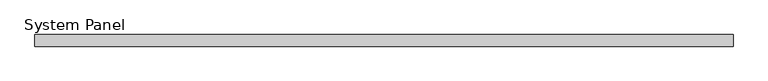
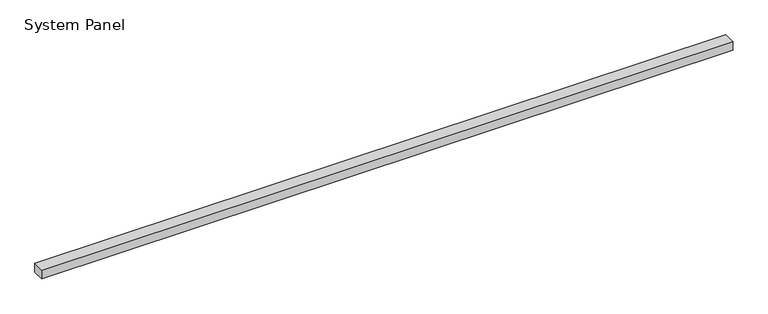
"""IFC4 building model written with IfcOpenShell, lengths in millimetres: plate geometry, System Panel : Equitilt 100mm Horizontal - Plain RHEA - MW."""

from ifc_helpers import new_model, si_unit, origin, origin_with_axes, place, context, project, spatial, polyline, outline, extrude, source, transform, mapped, element, save


def system_panel_810aceff(model_context):
    return source(origin(), model_context, "Body", "SweptSolid", [
        extrude(outline(polyline([(2990.0, -100.0), (-2990.0, -100.0), (-2990.0, 0.0), (2990.0, 0.0), (2990.0, -100.0)])), origin_with_axes(), (0.0, 0.0, 1.0), 79.9704237),
    ])


if __name__ == "__main__":
    model = new_model("IFC4")
    model_context = context("Model", 3, world=origin())
    ifc_project = project(units=[si_unit("LENGTHUNIT", "METRE", prefix="MILLI")], contexts=[model_context])
    site = spatial("IfcSite", under=ifc_project)
    building = spatial("IfcBuilding", under=site)
    placement = place(None, origin())
    system_panel_shape = system_panel_810aceff(model_context)
    element("IfcPlate", 1, ObjectType="System Panel : Equitilt 100mm Horizontal - Plain RHEA - MW", at=placement, inside=building, context=model_context, shape_type="MappedRepresentation", body=[
        mapped(system_panel_shape, transform((0.0, 0.0, 0.0), x_axis=(1.0, 0.0, 0.0), y_axis=(0.0, 1.0, 0.0), z_axis=(0.0, 0.0, 1.0))),
    ])
    save(model, "model.ifc")
